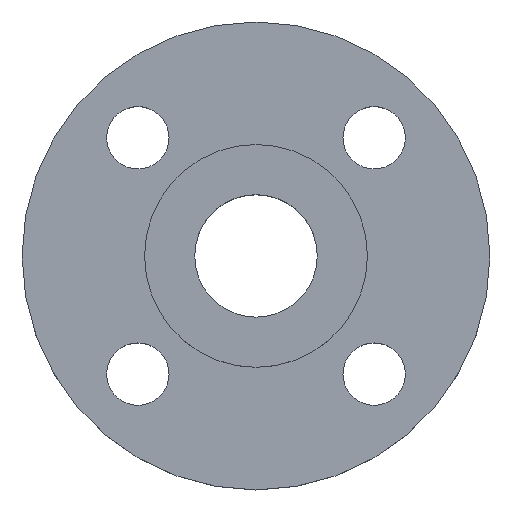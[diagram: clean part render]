
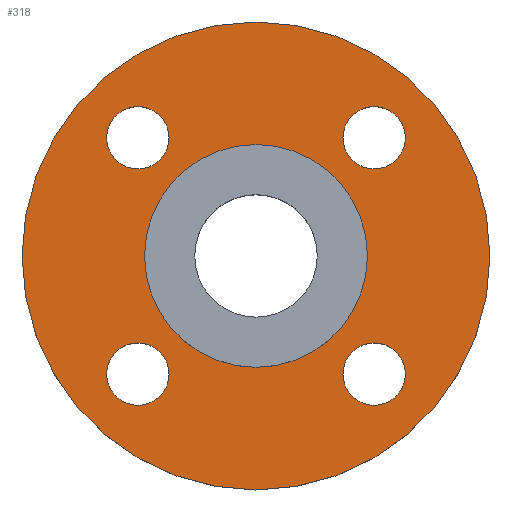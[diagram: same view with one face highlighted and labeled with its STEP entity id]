
A CAD part, top view. The second image highlights one B-rep face of the part: STEP entity #318.
In plain terms, the highlighted planar face has unit normal (0, 0, 1).
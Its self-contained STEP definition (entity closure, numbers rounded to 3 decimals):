
#1 = CIRCLE ( 'NONE', #350, 7. ) ;
#5 = DIRECTION ( 'NONE',  ( 1., 0., 0. ) ) ;
#8 = AXIS2_PLACEMENT_3D ( 'NONE', #568, #569, #570 ) ;
#15 = EDGE_CURVE ( 'NONE', #531, #268, #491, .T. ) ;
#28 = CARTESIAN_POINT ( 'NONE',  ( 19.517, -26.517, -4.5 ) ) ;
#38 = FACE_BOUND ( 'NONE', #158, .T. ) ;
#39 = FACE_BOUND ( 'NONE', #485, .T. ) ;
#41 = EDGE_CURVE ( 'NONE', #458, #496, #51, .T. ) ;
#43 = AXIS2_PLACEMENT_3D ( 'NONE', #543, #545, #546 ) ;
#48 = EDGE_CURVE ( 'NONE', #499, #297, #82, .T. ) ;
#51 = CIRCLE ( 'NONE', #8, 52.5 ) ;
#52 = FACE_BOUND ( 'NONE', #357, .T. ) ;
#54 = FACE_BOUND ( 'NONE', #516, .T. ) ;
#55 = FACE_BOUND ( 'NONE', #448, .T. ) ;
#56 = FACE_OUTER_BOUND ( 'NONE', #303, .T. ) ;
#57 = PLANE ( 'NONE',  #203 ) ;
#58 = CARTESIAN_POINT ( 'NONE',  ( 25., 0., -4.5 ) ) ;
#59 = DIRECTION ( 'NONE',  ( 0., 0., 1. ) ) ;
#63 = DIRECTION ( 'NONE',  ( 1., 0., 0. ) ) ;
#82 = CIRCLE ( 'NONE', #670, 7. ) ;
#90 = EDGE_CURVE ( 'NONE', #449, #532, #1, .T. ) ;
#91 = EDGE_CURVE ( 'NONE', #534, #536, #351, .T. ) ;
#98 = EDGE_CURVE ( 'NONE', #535, #413, #376, .T. ) ;
#106 = AXIS2_PLACEMENT_3D ( 'NONE', #238, #236, #705 ) ;
#110 = CARTESIAN_POINT ( 'NONE',  ( 26.517, 26.517, -4.5 ) ) ;
#112 = DIRECTION ( 'NONE',  ( 0., 0., -1. ) ) ;
#113 = DIRECTION ( 'NONE',  ( 1., 0., 0. ) ) ;
#114 = CARTESIAN_POINT ( 'NONE',  ( -33.517, -26.517, -4.5 ) ) ;
#118 = CIRCLE ( 'NONE', #106, 25. ) ;
#122 = CIRCLE ( 'NONE', #457, 7. ) ;
#140 = AXIS2_PLACEMENT_3D ( 'NONE', #683, #684, #686 ) ;
#158 = EDGE_LOOP ( 'NONE', ( #359, #360 ) ) ;
#167 = EDGE_CURVE ( 'NONE', #532, #449, #213, .T. ) ;
#175 = CARTESIAN_POINT ( 'NONE',  ( -33.517, 26.517, -4.5 ) ) ;
#184 = CARTESIAN_POINT ( 'NONE',  ( -52.5, 0., -4.5 ) ) ;
#185 = EDGE_CURVE ( 'NONE', #297, #499, #561, .T. ) ;
#191 = AXIS2_PLACEMENT_3D ( 'NONE', #675, #676, #677 ) ;
#196 = CARTESIAN_POINT ( 'NONE',  ( 52.5, 0., -4.5 ) ) ;
#197 = CARTESIAN_POINT ( 'NONE',  ( 33.517, -26.517, -4.5 ) ) ;
#203 = AXIS2_PLACEMENT_3D ( 'NONE', #58, #59, #63 ) ;
#213 = CIRCLE ( 'NONE', #371, 7. ) ;
#224 = CARTESIAN_POINT ( 'NONE',  ( -25., 0., -4.5 ) ) ;
#225 = EDGE_CURVE ( 'NONE', #496, #458, #700, .T. ) ;
#226 = CARTESIAN_POINT ( 'NONE',  ( -19.517, 26.517, -4.5 ) ) ;
#227 = CARTESIAN_POINT ( 'NONE',  ( 33.517, 26.517, -4.5 ) ) ;
#228 = CARTESIAN_POINT ( 'NONE',  ( -19.517, -26.517, -4.5 ) ) ;
#230 = CARTESIAN_POINT ( 'NONE',  ( 19.517, 26.517, -4.5 ) ) ;
#236 = DIRECTION ( 'NONE',  ( 0., 0., -1. ) ) ;
#237 = DIRECTION ( 'NONE',  ( 0., 0., -1. ) ) ;
#238 = CARTESIAN_POINT ( 'NONE',  ( 0., 0., -4.5 ) ) ;
#247 = CARTESIAN_POINT ( 'NONE',  ( -26.517, -26.517, -4.5 ) ) ;
#260 = AXIS2_PLACEMENT_3D ( 'NONE', #625, #626, #627 ) ;
#266 = AXIS2_PLACEMENT_3D ( 'NONE', #247, #237, #5 ) ;
#268 = VERTEX_POINT ( 'NONE', #691 ) ;
#297 = VERTEX_POINT ( 'NONE', #28 ) ;
#303 = EDGE_LOOP ( 'NONE', ( #379, #380 ) ) ;
#318 = ADVANCED_FACE ( 'NONE', ( #38, #39, #52, #54, #55, #56 ), #57, .T. ) ;
#350 = AXIS2_PLACEMENT_3D ( 'NONE', #622, #623, #624 ) ;
#351 = CIRCLE ( 'NONE', #260, 7. ) ;
#357 = EDGE_LOOP ( 'NONE', ( #365, #366 ) ) ;
#359 = ORIENTED_EDGE ( 'NONE', *, *, #48, .T. ) ;
#360 = ORIENTED_EDGE ( 'NONE', *, *, #185, .T. ) ;
#362 = ORIENTED_EDGE ( 'NONE', *, *, #98, .T. ) ;
#364 = ORIENTED_EDGE ( 'NONE', *, *, #603, .T. ) ;
#365 = ORIENTED_EDGE ( 'NONE', *, *, #167, .T. ) ;
#366 = ORIENTED_EDGE ( 'NONE', *, *, #90, .T. ) ;
#367 = ORIENTED_EDGE ( 'NONE', *, *, #91, .T. ) ;
#369 = ORIENTED_EDGE ( 'NONE', *, *, #411, .T. ) ;
#371 = AXIS2_PLACEMENT_3D ( 'NONE', #667, #668, #669 ) ;
#374 = ORIENTED_EDGE ( 'NONE', *, *, #15, .T. ) ;
#375 = ORIENTED_EDGE ( 'NONE', *, *, #609, .T. ) ;
#376 = CIRCLE ( 'NONE', #396, 7. ) ;
#379 = ORIENTED_EDGE ( 'NONE', *, *, #225, .F. ) ;
#380 = ORIENTED_EDGE ( 'NONE', *, *, #41, .F. ) ;
#396 = AXIS2_PLACEMENT_3D ( 'NONE', #634, #636, #637 ) ;
#411 = EDGE_CURVE ( 'NONE', #536, #534, #122, .T. ) ;
#413 = VERTEX_POINT ( 'NONE', #114 ) ;
#417 = CIRCLE ( 'NONE', #266, 7. ) ;
#448 = EDGE_LOOP ( 'NONE', ( #374, #375 ) ) ;
#449 = VERTEX_POINT ( 'NONE', #175 ) ;
#457 = AXIS2_PLACEMENT_3D ( 'NONE', #110, #112, #113 ) ;
#458 = VERTEX_POINT ( 'NONE', #184 ) ;
#485 = EDGE_LOOP ( 'NONE', ( #362, #364 ) ) ;
#491 = CIRCLE ( 'NONE', #43, 25. ) ;
#496 = VERTEX_POINT ( 'NONE', #196 ) ;
#499 = VERTEX_POINT ( 'NONE', #197 ) ;
#516 = EDGE_LOOP ( 'NONE', ( #367, #369 ) ) ;
#531 = VERTEX_POINT ( 'NONE', #224 ) ;
#532 = VERTEX_POINT ( 'NONE', #226 ) ;
#534 = VERTEX_POINT ( 'NONE', #227 ) ;
#535 = VERTEX_POINT ( 'NONE', #228 ) ;
#536 = VERTEX_POINT ( 'NONE', #230 ) ;
#543 = CARTESIAN_POINT ( 'NONE',  ( 0., 0., -4.5 ) ) ;
#545 = DIRECTION ( 'NONE',  ( 0., 0., -1. ) ) ;
#546 = DIRECTION ( 'NONE',  ( -1., 0., 0. ) ) ;
#561 = CIRCLE ( 'NONE', #191, 7. ) ;
#568 = CARTESIAN_POINT ( 'NONE',  ( 0., 0., -4.5 ) ) ;
#569 = DIRECTION ( 'NONE',  ( 0., 0., -1. ) ) ;
#570 = DIRECTION ( 'NONE',  ( -1., 0., 0. ) ) ;
#571 = CARTESIAN_POINT ( 'NONE',  ( 26.517, -26.517, -4.5 ) ) ;
#572 = DIRECTION ( 'NONE',  ( 0., 0., -1. ) ) ;
#573 = DIRECTION ( 'NONE',  ( 1., 0., 0. ) ) ;
#603 = EDGE_CURVE ( 'NONE', #413, #535, #417, .T. ) ;
#609 = EDGE_CURVE ( 'NONE', #268, #531, #118, .T. ) ;
#622 = CARTESIAN_POINT ( 'NONE',  ( -26.517, 26.517, -4.5 ) ) ;
#623 = DIRECTION ( 'NONE',  ( 0., 0., -1. ) ) ;
#624 = DIRECTION ( 'NONE',  ( 1., 0., 0. ) ) ;
#625 = CARTESIAN_POINT ( 'NONE',  ( 26.517, 26.517, -4.5 ) ) ;
#626 = DIRECTION ( 'NONE',  ( 0., 0., -1. ) ) ;
#627 = DIRECTION ( 'NONE',  ( 1., 0., 0. ) ) ;
#634 = CARTESIAN_POINT ( 'NONE',  ( -26.517, -26.517, -4.5 ) ) ;
#636 = DIRECTION ( 'NONE',  ( 0., 0., -1. ) ) ;
#637 = DIRECTION ( 'NONE',  ( 1., 0., 0. ) ) ;
#667 = CARTESIAN_POINT ( 'NONE',  ( -26.517, 26.517, -4.5 ) ) ;
#668 = DIRECTION ( 'NONE',  ( 0., 0., -1. ) ) ;
#669 = DIRECTION ( 'NONE',  ( 1., 0., 0. ) ) ;
#670 = AXIS2_PLACEMENT_3D ( 'NONE', #571, #572, #573 ) ;
#675 = CARTESIAN_POINT ( 'NONE',  ( 26.517, -26.517, -4.5 ) ) ;
#676 = DIRECTION ( 'NONE',  ( 0., 0., -1. ) ) ;
#677 = DIRECTION ( 'NONE',  ( 1., 0., 0. ) ) ;
#683 = CARTESIAN_POINT ( 'NONE',  ( 0., 0., -4.5 ) ) ;
#684 = DIRECTION ( 'NONE',  ( 0., 0., -1. ) ) ;
#686 = DIRECTION ( 'NONE',  ( -1., 0., 0. ) ) ;
#691 = CARTESIAN_POINT ( 'NONE',  ( 25., 0., -4.5 ) ) ;
#700 = CIRCLE ( 'NONE', #140, 52.5 ) ;
#705 = DIRECTION ( 'NONE',  ( -1., 0., 0. ) ) ;
